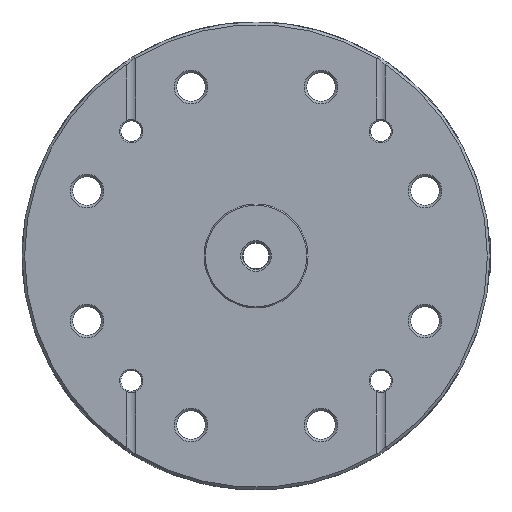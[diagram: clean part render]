
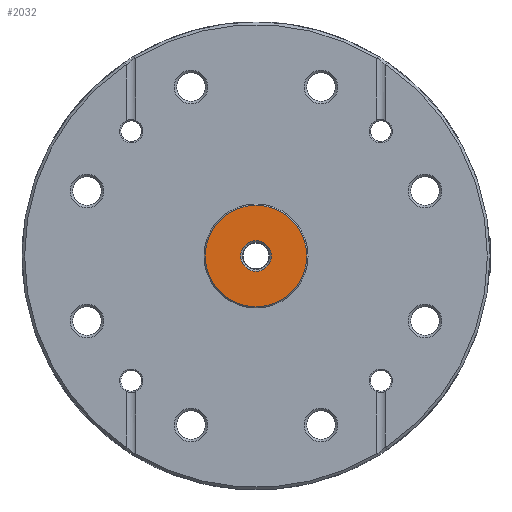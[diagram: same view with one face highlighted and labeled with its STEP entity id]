
A CAD part, front view. The second image highlights one B-rep face of the part: STEP entity #2032.
In plain terms, the highlighted planar face has unit normal (0, -1, 0).
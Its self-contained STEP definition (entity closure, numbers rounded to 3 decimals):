
#2032=ADVANCED_FACE('',(#6561,#6562),#3256,.F.);
#3256=PLANE('',#20493);
#6315=CIRCLE('',#20491,19.5);
#6316=CIRCLE('',#20492,5.95);
#6561=FACE_BOUND('',#7159,.T.);
#6562=FACE_BOUND('',#7160,.T.);
#7159=EDGE_LOOP('',(#8981));
#7160=EDGE_LOOP('',(#8982));
#8981=ORIENTED_EDGE('',*,*,#16979,.T.);
#8982=ORIENTED_EDGE('',*,*,#16980,.T.);
#14849=VERTEX_POINT('',#26287);
#14850=VERTEX_POINT('',#26289);
#16979=EDGE_CURVE('',#14849,#14849,#6315,.T.);
#16980=EDGE_CURVE('',#14850,#14850,#6316,.T.);
#20491=AXIS2_PLACEMENT_3D('',#26286,#21852,#21853);
#20492=AXIS2_PLACEMENT_3D('',#26288,#21854,#21855);
#20493=AXIS2_PLACEMENT_3D('',#26290,#21856,#21857);
#21852=DIRECTION('',(0.,-1.,0.));
#21853=DIRECTION('',(0.,0.,1.));
#21854=DIRECTION('',(0.,1.,0.));
#21855=DIRECTION('',(0.,0.,1.));
#21856=DIRECTION('',(0.,1.,0.));
#21857=DIRECTION('',(0.,0.,1.));
#26286=CARTESIAN_POINT('',(1044.,-6.,178.));
#26287=CARTESIAN_POINT('',(1044.,-6.,197.5));
#26288=CARTESIAN_POINT('',(1044.,-6.,178.));
#26289=CARTESIAN_POINT('',(1044.,-6.,183.95));
#26290=CARTESIAN_POINT('',(1044.,-6.,178.));
